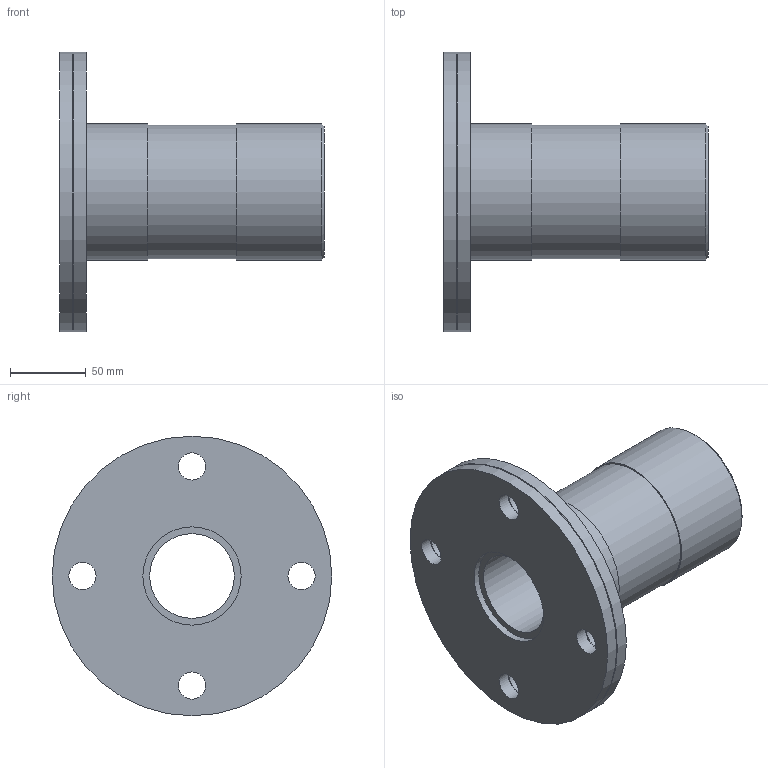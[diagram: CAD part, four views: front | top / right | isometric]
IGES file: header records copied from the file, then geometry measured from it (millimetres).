
Global section: file name: 0723060900250A.ipt; native system: Autodesk Inventor 2015; preprocessor: unknown; author: Кирилл,,11,0; organization: 20170224.180708; date: 20170608.042645; units: millimetre
Bounding box: 175 x 185 x 185 mm (x, y, z)
Volume: 966165.6 mm3; surface area: 142136.3 mm2
Topology: 1 solids, 1 shells, 34 faces, 91 edges, 64 vertices
Faces by surface type: revolution 19, plane 7, cylinder 5, cone 3
Full cylindrical faces by diameter (mm): 88.2 x1, 90 x2, 185 x2
